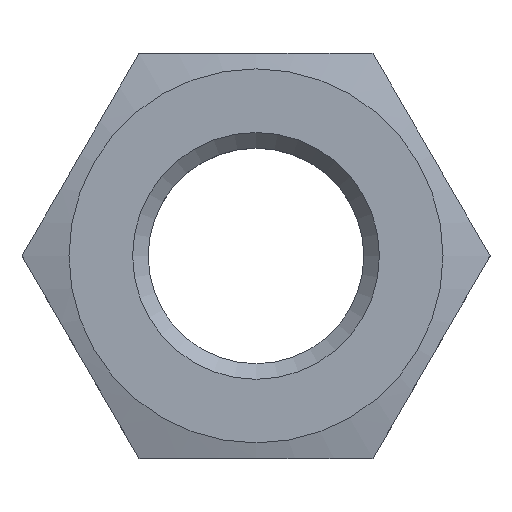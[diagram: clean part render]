
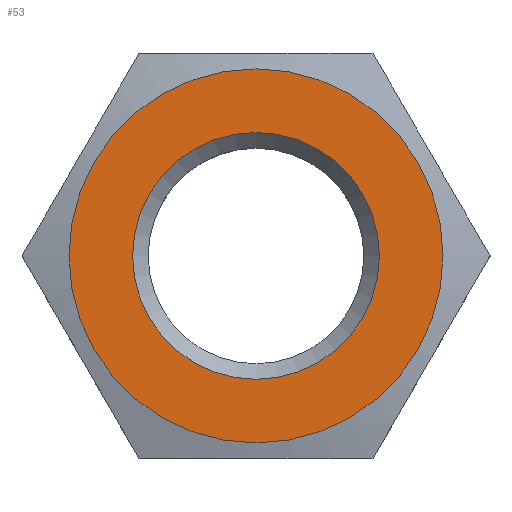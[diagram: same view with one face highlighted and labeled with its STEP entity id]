
A CAD part, top view. The second image highlights one B-rep face of the part: STEP entity #53.
In plain terms, the highlighted planar face has unit normal (0, 0, 1).
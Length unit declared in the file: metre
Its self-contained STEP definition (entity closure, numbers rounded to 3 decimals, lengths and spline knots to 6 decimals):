
#53 = ADVANCED_FACE( '', ( #108, #109 ), #110, .T. );
#108 = FACE_BOUND( '', #161, .T. );
#109 = FACE_OUTER_BOUND( '', #162, .T. );
#110 = PLANE( '', #163 );
#161 = EDGE_LOOP( '', ( #246 ) );
#162 = EDGE_LOOP( '', ( #247 ) );
#163 = AXIS2_PLACEMENT_3D( '', #248, #249, #250 );
#246 = ORIENTED_EDGE( '', *, *, #311, .T. );
#247 = ORIENTED_EDGE( '', *, *, #305, .T. );
#248 = CARTESIAN_POINT( '', ( -0.003753, 0.0065, 0.004 ) );
#249 = DIRECTION( '', ( 0., 0., 1. ) );
#250 = DIRECTION( '', ( 1., 0., 0. ) );
#305 = EDGE_CURVE( '', #358, #358, #359, .T. );
#311 = EDGE_CURVE( '', #365, #365, #366, .F. );
#358 = VERTEX_POINT( '', #477 );
#359 = CIRCLE( '', #478, 0.006 );
#365 = VERTEX_POINT( '', #486 );
#366 = CIRCLE( '', #487, 0.003959 );
#477 = CARTESIAN_POINT( '', ( 0.006, 0., 0.004 ) );
#478 = AXIS2_PLACEMENT_3D( '', #508, #509, #510 );
#486 = CARTESIAN_POINT( '', ( 0.003959, 0., 0.004 ) );
#487 = AXIS2_PLACEMENT_3D( '', #513, #514, #515 );
#508 = CARTESIAN_POINT( '', ( 0., 0., 0.004 ) );
#509 = DIRECTION( '', ( 0., 0., 1. ) );
#510 = DIRECTION( '', ( 1., 0., 0. ) );
#513 = CARTESIAN_POINT( '', ( 0., 0., 0.004 ) );
#514 = DIRECTION( '', ( 0., 0., 1. ) );
#515 = DIRECTION( '', ( 1., 0., 0. ) );
